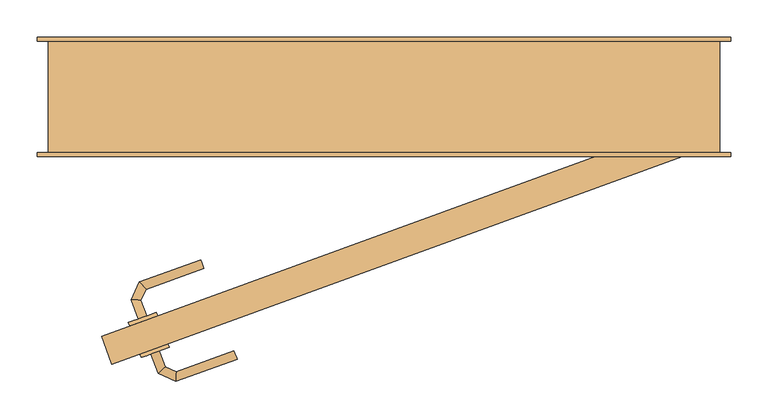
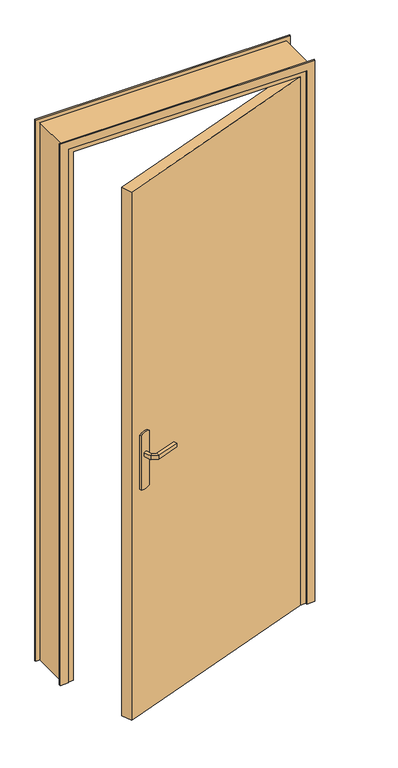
"""IFC4 building model written with IfcOpenShell, lengths in millimetres: door geometry, @_Int. Simple : @_PP (0.83m x 2.04m)."""

from ifc_helpers import new_model, si_unit, point, frame, frame_2d, origin, origin_with_axes, place, context, project, spatial, polyline, circle_curve, ellipse_curve, trimmed, segment, composite_curve, outline, extrude, faceted_brep, source, transform, mapped, element, save
from ifc_brep_helpers import plane_surface, cylinder_surface, advanced_brep


def door_cb0b5031(model_context):
    return source(origin(), model_context, "Body", "SolidModel", [
        extrude(outline(composite_curve([segment(trimmed(circle_curve(frame_2d((0.0, -40.0)), 40.0), [point((-34.6410162, -60.0))], [point((-34.6410162, -20.0))], False, "CARTESIAN"), True, "CONTINUOUS"), segment(polyline([(-34.6410162, -20.0), (175.3589838, -20.0)]), True, "CONTINUOUS"), segment(trimmed(circle_curve(frame_2d((140.7179676, -40.0)), 40.0), [point((175.3589838, -20.0))], [point((175.3589838, -60.0))], False, "CARTESIAN"), True, "CONTINUOUS"), segment(polyline([(175.3589838, -60.0), (-34.6410162, -60.0)]), True, "CONTINUOUS")], self_intersect=False)), frame((-304.2655125, -329.3731677, 904.6410162), z_axis=(-0.3420201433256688, 0.9396926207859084, 0.0), x_axis=(0.0, 0.0, 1.0)), (0.0, 0.0, 1.0), 5.0),
        extrude(outline(composite_curve([segment(trimmed(circle_curve(frame_2d((0.0, -40.0)), 40.0), [point((34.6410162, -20.0))], [point((34.6410162, -60.0))], False, "CARTESIAN"), True, "CONTINUOUS"), segment(polyline([(34.6410162, -60.0), (-175.3589838, -60.0)]), True, "CONTINUOUS"), segment(trimmed(circle_curve(frame_2d((-140.7179676, -40.0)), 40.0), [point((-175.3589838, -60.0))], [point((-175.3589838, -20.0))], False, "CARTESIAN"), True, "CONTINUOUS"), segment(polyline([(-175.3589838, -20.0), (34.6410162, -20.0)]), True, "CONTINUOUS")], self_intersect=False)), frame((-319.6564189, -287.0869998, 1045.3589838), z_axis=(-0.3420201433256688, 0.9396926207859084, 0.0), x_axis=(0.0, 0.0, 1.0)), (0.0, 0.0, 1.0), 5.0),
        advanced_brep(
        [(-347.491373, -345.1060943, 1007.0), (-336.2150616, -341.0018526, 1007.0), (-336.2150616, -341.0018526, 993.0), (-347.491373, -345.1060943, 993.0), (-338.0341909, -371.0894887, 1007.0), (-328.457912, -362.3144458, 1007.0), (-328.457912, -362.3144458, 993.0), (-338.0341909, -371.0894887, 993.0), (-314.4798863, -382.0730413, 1007.0), (-313.9133269, -369.0966972, 1007.0), (-313.9133269, -369.0966972, 993.0), (-314.4798863, -382.0730413, 993.0), (-232.1238807, -352.0979066, 1007.0), (-232.1238807, -352.0979066, 993.0), (-236.2281224, -340.8215952, 993.0), (-236.2281224, -340.8215952, 1007.0)],
        [
            (0, 1, circle_curve(frame((-341.8532173, -343.0539735, 986.9542278), z_axis=(-0.3420201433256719, 0.9396926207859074, 0.0), x_axis=(0.9396926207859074, 0.3420201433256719, 0.0)), 20.9244589)),
            (1, 2),
            (2, 3, circle_curve(frame((-341.8532173, -343.0539735, 1013.0457722), z_axis=(-0.3420201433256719, 0.9396926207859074, 0.0), x_axis=(0.9396926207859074, 0.3420201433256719, 0.0)), 20.9244589)),
            (3, 0),
            (0, 4),
            (4, 5, ellipse_curve(frame((-333.2460515, -366.7019672, 986.9542278), z_axis=(-0.6755902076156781, 0.7372773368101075, 0.0), x_axis=(0.7372773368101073, 0.6755902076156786, 0.0)), 22.6484711, 20.9244589)),
            (5, 1),
            (5, 6),
            (6, 2),
            (6, 7, ellipse_curve(frame((-333.2460515, -366.7019672, 1013.0457722), z_axis=(-0.6755902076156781, 0.7372773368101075, 0.0), x_axis=(0.7372773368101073, 0.6755902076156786, 0.0)), 22.6484711, 20.9244589)),
            (7, 3),
            (7, 4),
            (4, 8),
            (8, 9, ellipse_curve(frame((-314.1966066, -375.5848693, 986.9542278), z_axis=(-0.9990482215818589, 0.0436193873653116, 0.0), x_axis=(0.04361938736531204, 0.9990482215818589, 0.0)), 22.6484711, 20.9244589)),
            (9, 5),
            (9, 10),
            (10, 6),
            (10, 11, ellipse_curve(frame((-314.1966066, -375.5848693, 1013.0457722), z_axis=(-0.9990482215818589, 0.0436193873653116, 0.0), x_axis=(0.04361938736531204, 0.9990482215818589, 0.0)), 22.6484711, 20.9244589)),
            (11, 7),
            (11, 8),
            (12, 13),
            (13, 14, circle_curve(frame((-234.1760015, -346.4597509, 1013.0457722), z_axis=(0.9396926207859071, 0.34202014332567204, 0.0), x_axis=(-0.3420201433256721, 0.9396926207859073, 0.0)), 20.9244589)),
            (14, 15),
            (15, 12, circle_curve(frame((-234.1760015, -346.4597509, 986.9542278), z_axis=(0.9396926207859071, 0.34202014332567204, 0.0), x_axis=(-0.3420201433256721, 0.9396926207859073, 0.0)), 20.9244589)),
            (8, 12),
            (15, 9),
            (14, 10),
            (13, 11),
        ],
        [
            plane_surface(frame((-350.5167552, -346.2072434, 1000.0), z_axis=(-0.3420201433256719, 0.9396926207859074, 0.0), x_axis=(0.0, 0.0, -1.0))),
            cylinder_surface(frame((-341.8532173, -343.0539735, 986.9542278), z_axis=(-0.3420201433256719, 0.9396926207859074, 0.0), x_axis=(0.9396926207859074, 0.3420201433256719, 0.0)), 20.9244589),
            plane_surface(frame((-336.2150616, -341.0018526, 1007.0), z_axis=(0.9396926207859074, 0.3420201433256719, 0.0), x_axis=(0.3420201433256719, -0.9396926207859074, 0.0))),
            cylinder_surface(frame((-341.8532173, -343.0539735, 1013.0457722), z_axis=(-0.3420201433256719, 0.9396926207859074, 0.0), x_axis=(0.9396926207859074, 0.3420201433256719, 0.0)), 20.9244589),
            plane_surface(frame((-347.491373, -345.1060943, 993.0), z_axis=(-0.9396926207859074, -0.3420201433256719, 0.0), x_axis=(0.3420201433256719, -0.9396926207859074, 0.0))),
            cylinder_surface(frame((-333.2460515, -366.7019672, 986.9542278), z_axis=(-0.9063077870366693, 0.42261826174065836, 0.0), x_axis=(0.42261826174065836, 0.9063077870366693, 0.0)), 20.9244589),
            plane_surface(frame((-328.457912, -362.3144458, 1007.0), z_axis=(0.42261826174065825, 0.9063077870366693, 0.0), x_axis=(0.9063077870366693, -0.42261826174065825, 0.0))),
            cylinder_surface(frame((-333.2460515, -366.7019672, 1013.0457722), z_axis=(-0.9063077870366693, 0.42261826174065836, 0.0), x_axis=(0.42261826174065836, 0.9063077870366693, 0.0)), 20.9244589),
            plane_surface(frame((-338.0341909, -371.0894887, 993.0), z_axis=(-0.42261826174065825, -0.9063077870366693, 0.0), x_axis=(0.9063077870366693, -0.42261826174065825, 0.0))),
            plane_surface(frame((-234.1760015, -346.4597509, 990.7804555), z_axis=(0.9396926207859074, 0.3420201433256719, 0.0), x_axis=(-0.3420201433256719, 0.9396926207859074, 0.0))),
            cylinder_surface(frame((-314.1966066, -375.5848693, 986.9542278), z_axis=(-0.9396926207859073, -0.3420201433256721, 0.0), x_axis=(-0.3420201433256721, 0.9396926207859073, 0.0)), 20.9244589),
            plane_surface(frame((-313.9133269, -369.0966972, 1007.0), z_axis=(-0.3420201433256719, 0.9396926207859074, 0.0), x_axis=(0.9396926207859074, 0.3420201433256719, 0.0))),
            cylinder_surface(frame((-314.1966066, -375.5848693, 1013.0457722), z_axis=(-0.9396926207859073, -0.3420201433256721, 0.0), x_axis=(-0.3420201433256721, 0.9396926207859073, 0.0)), 20.9244589),
            plane_surface(frame((-314.4798863, -382.0730413, 993.0), z_axis=(0.3420201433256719, -0.9396926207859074, 0.0), x_axis=(0.9396926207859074, 0.3420201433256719, 0.0))),
        ],
        [
            (0, [[1, 2, 3, 4]]),
            (1, [[-1, 5, 6, 7]]),
            (2, [[-2, -7, 8, 9]]),
            (3, [[-3, -9, 10, 11]]),
            (4, [[-4, -11, 12, -5]]),
            (5, [[-6, 13, 14, 15]]),
            (6, [[-8, -15, 16, 17]]),
            (7, [[-10, -17, 18, 19]]),
            (8, [[-12, -19, 20, -13]]),
            (9, [[21, 22, 23, 24]]),
            (10, [[-14, 25, -24, 26]]),
            (11, [[-16, -26, -23, 27]]),
            (12, [[-18, -27, -22, 28]]),
            (13, [[-20, -28, -21, -25]]),
        ],
    ),
        advanced_brep(
        [(-353.3160687, -294.0172216, 993.0), (-353.3160687, -294.0172216, 1007.0), (-364.5923802, -298.1214633, 1007.0), (-364.5923802, -298.1214633, 993.0), (-361.0064616, -272.8880408, 993.0), (-361.0064616, -272.8880408, 1007.0), (-373.9828056, -272.3214814, 1007.0), (-373.9828056, -272.3214814, 993.0), (-354.142025, -258.1672091, 993.0), (-354.142025, -258.1672091, 1007.0), (-362.9170679, -248.5909302, 1007.0), (-362.9170679, -248.5909302, 993.0), (-276.5605303, -229.9298543, 993.0), (-280.664772, -218.6535428, 993.0), (-280.664772, -218.6535428, 1007.0), (-276.5605303, -229.9298543, 1007.0)],
        [
            (0, 1),
            (1, 2, circle_curve(frame((-358.9542245, -296.0693424, 986.9542278), z_axis=(0.3420201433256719, -0.9396926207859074, 0.0), x_axis=(-0.9396926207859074, -0.3420201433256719, 0.0)), 20.9244589)),
            (2, 3),
            (3, 0, circle_curve(frame((-358.9542245, -296.0693424, 1013.0457722), z_axis=(0.3420201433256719, -0.9396926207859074, 0.0), x_axis=(-0.9396926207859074, -0.3420201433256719, 0.0)), 20.9244589)),
            (0, 4),
            (4, 5),
            (5, 1),
            (5, 6, ellipse_curve(frame((-367.4946336, -272.6047611, 986.9542278), z_axis=(-0.043619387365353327, -0.9990482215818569, 0.0), x_axis=(0.9990482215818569, -0.04361938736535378, 0.0)), 22.6484711, 20.9244589)),
            (6, 2),
            (6, 7),
            (7, 3),
            (7, 4, ellipse_curve(frame((-367.4946336, -272.6047611, 1013.0457722), z_axis=(-0.043619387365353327, -0.9990482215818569, 0.0), x_axis=(0.9990482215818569, -0.04361938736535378, 0.0)), 22.6484711, 20.9244589)),
            (4, 8),
            (8, 9),
            (9, 5),
            (9, 10, ellipse_curve(frame((-358.5295465, -253.3790696, 986.9542278), z_axis=(-0.737277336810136, -0.6755902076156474, 0.0), x_axis=(0.6755902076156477, -0.7372773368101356, 0.0)), 22.6484711, 20.9244589)),
            (10, 6),
            (10, 11),
            (11, 7),
            (11, 8, ellipse_curve(frame((-358.5295465, -253.3790696, 1013.0457722), z_axis=(-0.737277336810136, -0.6755902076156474, 0.0), x_axis=(0.6755902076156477, -0.7372773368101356, 0.0)), 22.6484711, 20.9244589)),
            (12, 13, circle_curve(frame((-278.6126511, -224.2916985, 1013.0457722), z_axis=(0.9396926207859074, 0.3420201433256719, 0.0), x_axis=(-0.3420201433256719, 0.9396926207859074, 0.0)), 20.9244589)),
            (13, 14),
            (14, 15, circle_curve(frame((-278.6126511, -224.2916985, 986.9542278), z_axis=(0.9396926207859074, 0.3420201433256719, 0.0), x_axis=(-0.3420201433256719, 0.9396926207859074, 0.0)), 20.9244589)),
            (15, 12),
            (8, 12),
            (15, 9),
            (14, 10),
            (13, 11),
        ],
        [
            plane_surface(frame((-367.6177623, -299.2226123, 1000.0), z_axis=(0.3420201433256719, -0.9396926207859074, 0.0), x_axis=(0.0, 0.0, 1.0))),
            plane_surface(frame((-353.3160687, -294.0172216, 993.0), z_axis=(0.9396926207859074, 0.3420201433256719, 0.0), x_axis=(-0.3420201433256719, 0.9396926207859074, 0.0))),
            cylinder_surface(frame((-358.9542245, -296.0693424, 986.9542278), z_axis=(0.3420201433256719, -0.9396926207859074, 0.0), x_axis=(-0.9396926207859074, -0.3420201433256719, 0.0)), 20.9244589),
            plane_surface(frame((-364.5923802, -298.1214633, 1007.0), z_axis=(-0.9396926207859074, -0.3420201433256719, 0.0), x_axis=(-0.3420201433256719, 0.9396926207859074, 0.0))),
            cylinder_surface(frame((-358.9542245, -296.0693424, 1013.0457722), z_axis=(0.3420201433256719, -0.9396926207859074, 0.0), x_axis=(-0.9396926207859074, -0.3420201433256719, 0.0)), 20.9244589),
            plane_surface(frame((-361.0064616, -272.8880408, 993.0), z_axis=(0.906307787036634, -0.42261826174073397, 0.0), x_axis=(0.42261826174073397, 0.906307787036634, 0.0))),
            cylinder_surface(frame((-367.4946336, -272.6047611, 986.9542278), z_axis=(-0.422618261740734, -0.9063077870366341, 0.0), x_axis=(-0.9063077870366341, 0.422618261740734, 0.0)), 20.9244589),
            plane_surface(frame((-373.9828056, -272.3214814, 1007.0), z_axis=(-0.906307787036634, 0.4226182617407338, 0.0), x_axis=(0.4226182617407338, 0.906307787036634, 0.0))),
            cylinder_surface(frame((-367.4946336, -272.6047611, 1013.0457722), z_axis=(-0.422618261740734, -0.9063077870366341, 0.0), x_axis=(-0.9063077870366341, 0.422618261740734, 0.0)), 20.9244589),
            plane_surface(frame((-278.6126511, -224.2916985, 990.7804555), z_axis=(0.9396926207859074, 0.3420201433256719, 0.0), x_axis=(-0.3420201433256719, 0.9396926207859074, 0.0))),
            plane_surface(frame((-354.142025, -258.1672091, 993.0), z_axis=(0.3420201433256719, -0.9396926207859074, 0.0), x_axis=(0.9396926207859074, 0.3420201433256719, 0.0))),
            cylinder_surface(frame((-358.5295465, -253.3790696, 986.9542278), z_axis=(-0.9396926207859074, -0.3420201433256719, 0.0), x_axis=(-0.3420201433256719, 0.9396926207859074, 0.0)), 20.9244589),
            plane_surface(frame((-362.9170679, -248.5909302, 1007.0), z_axis=(-0.3420201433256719, 0.9396926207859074, 0.0), x_axis=(0.9396926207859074, 0.3420201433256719, 0.0))),
            cylinder_surface(frame((-358.5295465, -253.3790696, 1013.0457722), z_axis=(-0.9396926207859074, -0.3420201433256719, 0.0), x_axis=(-0.3420201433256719, 0.9396926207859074, 0.0)), 20.9244589),
        ],
        [
            (0, [[1, 2, 3, 4]]),
            (1, [[-1, 5, 6, 7]]),
            (2, [[-2, -7, 8, 9]]),
            (3, [[-3, -9, 10, 11]]),
            (4, [[-4, -11, 12, -5]]),
            (5, [[-6, 13, 14, 15]]),
            (6, [[-8, -15, 16, 17]]),
            (7, [[-10, -17, 18, 19]]),
            (8, [[-12, -19, 20, -13]]),
            (9, [[21, 22, 23, 24]]),
            (10, [[-14, 25, -24, 26]]),
            (11, [[-16, -26, -23, 27]]),
            (12, [[-18, -27, -22, 28]]),
            (13, [[-20, -28, -21, -25]]),
        ],
    ),
        extrude(outline(polyline([(-413.625681, -321.2890141), (366.3191943, -37.4122952), (380.0, -75.0), (-399.9448753, -358.876719), (-413.625681, -321.2890141)])), origin_with_axes(), (0.0, 0.0, 1.0), 2040.0),
        faceted_brep([(-485.0, -75.0, 0.0), (-485.0, 75.0, 0.0), (-435.0, 75.0, 0.0), (-435.0, -35.0, 0.0), (-450.0, -35.0, 0.0), (-450.0, -75.0, 0.0), (-485.0, -75.0, 2075.0), (-485.0, 75.0, 2075.0), (415.0, 75.0, 2075.0), (415.0, 75.0, 0.0), (365.0, 75.0, 0.0), (365.0, 75.0, 2025.0), (-435.0, 75.0, 2025.0), (-435.0, -35.0, 2025.0), (365.0, -35.0, 2025.0), (365.0, -35.0, 0.0), (380.0, -35.0, 0.0), (380.0, -35.0, 2040.0), (-450.0, -35.0, 2040.0), (-450.0, -75.0, 2040.0), (380.0, -75.0, 2040.0), (380.0, -75.0, 0.0), (415.0, -75.0, 0.0), (415.0, -75.0, 2075.0)], [[[0, 1, 2, 3, 4, 5]], [[1, 0, 6, 7]], [[2, 1, 7, 8, 9, 10, 11, 12]], [[3, 2, 12, 13]], [[4, 3, 13, 14, 15, 16, 17, 18]], [[5, 4, 18, 19]], [[0, 5, 19, 20, 21, 22, 23, 6]], [[8, 23, 22, 9]], [[22, 21, 16, 15, 10, 9]], [[14, 11, 10, 15]], [[20, 17, 16, 21]], [[7, 6, 23, 8]], [[13, 12, 11, 14]], [[19, 18, 17, 20]]]),
        extrude(outline(polyline([(0.0, -500.0), (0.0, -470.0), (2060.0, -470.0), (2060.0, 400.0), (0.0, 400.0), (0.0, 430.0), (2090.0, 430.0), (2090.0, -500.0), (0.0, -500.0)])), frame((0.0, -80.0, 0.0), z_axis=(0.0, 1.0, 0.0), x_axis=(0.0, 0.0, 1.0)), (0.0, 0.0, 1.0), 5.0),
        extrude(outline(polyline([(0.0, -500.0), (0.0, -470.0), (2060.0, -470.0), (2060.0, 400.0), (0.0, 400.0), (0.0, 430.0), (2090.0, 430.0), (2090.0, -500.0), (0.0, -500.0)])), frame((0.0, 75.0, 0.0), z_axis=(0.0, 1.0, 0.0), x_axis=(0.0, 0.0, 1.0)), (0.0, 0.0, 1.0), 5.0),
    ])


if __name__ == "__main__":
    model = new_model("IFC4")
    model_context = context("Model", 3, world=origin())
    ifc_project = project(units=[si_unit("LENGTHUNIT", "METRE", prefix="MILLI")], contexts=[model_context])
    site = spatial("IfcSite", under=ifc_project)
    building = spatial("IfcBuilding", under=site)
    placement = place(None, origin())
    door_shape = door_cb0b5031(model_context)
    element("IfcDoor", 1, ObjectType="@_Int. Simple : @_PP (0.83m x 2.04m)", at=placement, inside=building, context=model_context, shape_type="MappedRepresentation", body=[
        mapped(door_shape, transform((0.0, 0.0, 0.0), x_axis=(1.0, 0.0, 0.0), y_axis=(0.0, 1.0, 0.0), z_axis=(0.0, 0.0, 1.0))),
    ])
    save(model, "model.ifc")
